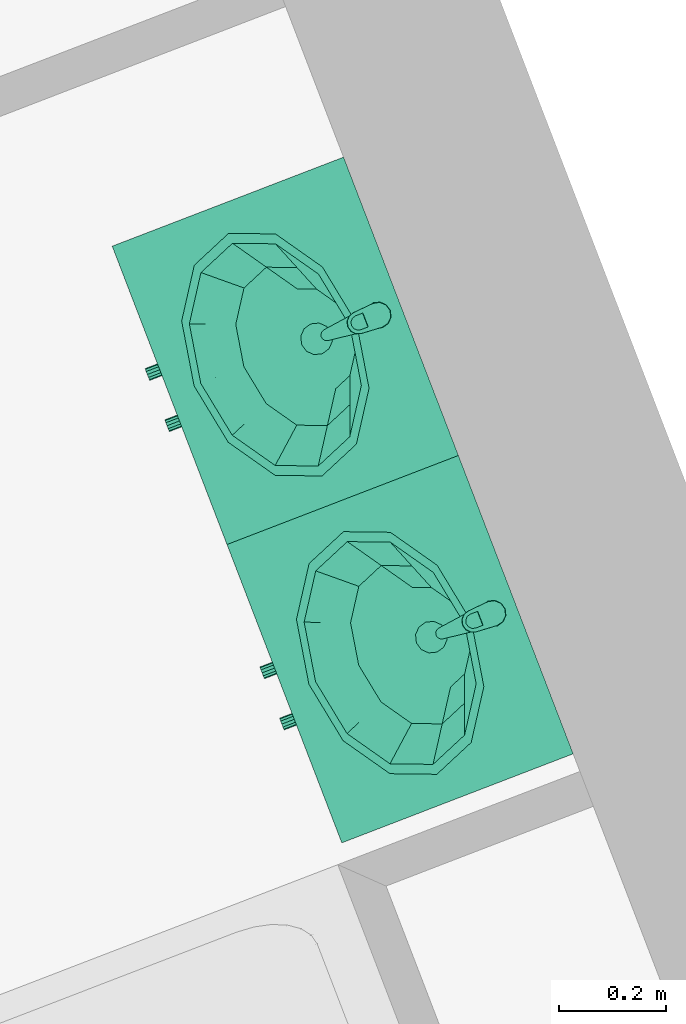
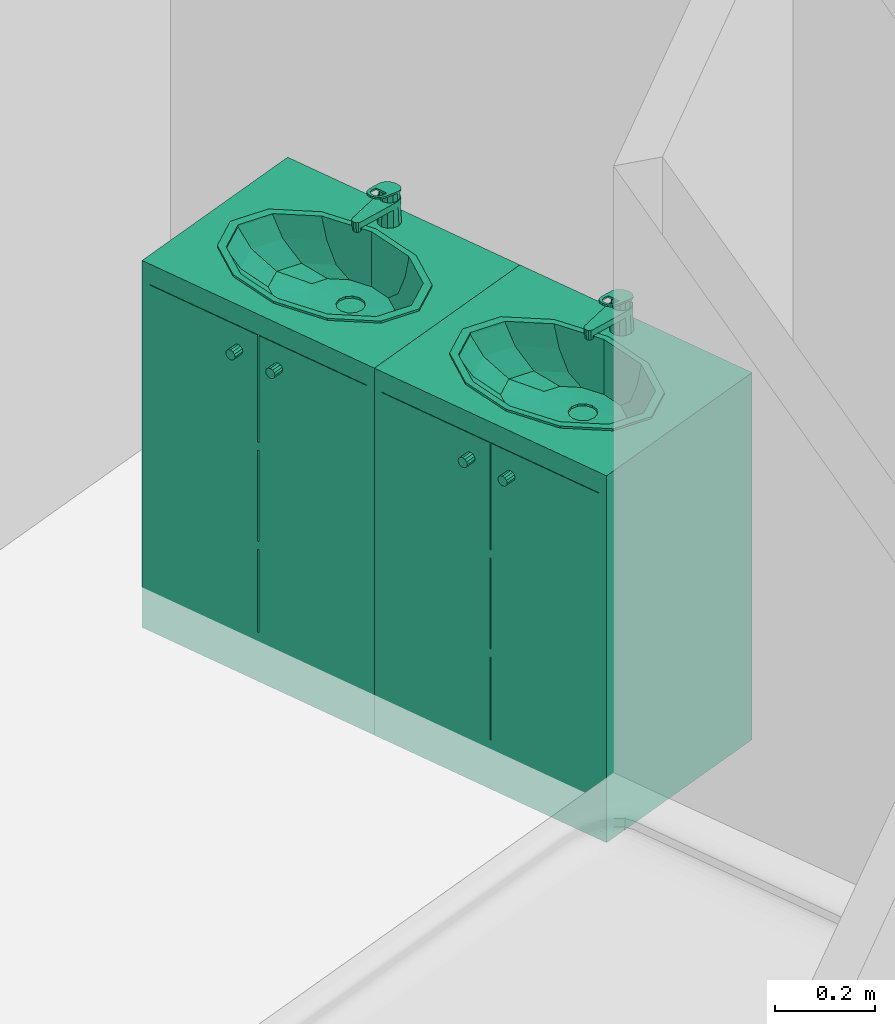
# One storey, part 142 of 195: 2 distribution elements.
"""IFC2X3 building model written with IfcOpenShell, lengths in metres."""

from ifc_helpers import new_model, entity, si_unit, converted_unit, derived_unit, money_unit, direction, frame, origin_with_axes, place, context, subcontext, project, spatial, open_shell, faceted_brep, surface_model, source, transform, mapped, type_object, element, save


model = new_model("IFC2X3")

# Units and contexts
model_context = context("Model", 3, precision=1e-05, world=origin_with_axes(), true_north=direction((0.0, 1.0)))
body_context = subcontext(model_context, "Body", "Model", "MODEL_VIEW")
ifc_project = project(units=[si_unit("LENGTHUNIT", "METRE"), si_unit("AREAUNIT", "SQUARE_METRE"), si_unit("VOLUMEUNIT", "CUBIC_METRE"), converted_unit("PLANEANGLEUNIT", "DEGREE", entity("IfcPlaneAngleMeasure", 0.0174532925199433), si_unit("PLANEANGLEUNIT", "RADIAN"), dimensions=[0, 0, 0, 0, 0, 0, 0]), money_unit("CHF"), converted_unit("TIMEUNIT", "Year", entity("IfcTimeMeasure", 31557600.0), si_unit("TIMEUNIT", "SECOND"), dimensions=[0, 0, 1, 0, 0, 0, 0]), si_unit("MASSUNIT", "GRAM", prefix="KILO"), si_unit("THERMODYNAMICTEMPERATUREUNIT", "DEGREE_CELSIUS"), si_unit("LUMINOUSINTENSITYUNIT", "LUMEN"), si_unit("ENERGYUNIT", "JOULE", prefix="MEGA"), derived_unit("THERMALCONDUCTANCEUNIT", [(si_unit("POWERUNIT", "WATT"), 1), (si_unit("LENGTHUNIT", "METRE"), -1), (si_unit("THERMODYNAMICTEMPERATUREUNIT", "KELVIN"), -1)]), derived_unit("SPECIFICHEATCAPACITYUNIT", [(si_unit("ENERGYUNIT", "JOULE"), 1), (si_unit("MASSUNIT", "GRAM", prefix="KILO"), -1), (si_unit("THERMODYNAMICTEMPERATUREUNIT", "KELVIN"), -1)]), derived_unit("MASSDENSITYUNIT", [(si_unit("MASSUNIT", "GRAM", prefix="KILO"), 1), (si_unit("VOLUMEUNIT", "CUBIC_METRE"), -1)])], contexts=[model_context])

# Site, building, storey
site_placement = place(None, origin_with_axes())
site = spatial("IfcSite", under=ifc_project, at=site_placement, Name="Site", CompositionType="ELEMENT")
building_placement = place(site_placement, origin_with_axes())
building = spatial("IfcBuilding", under=site, at=building_placement, Name="Bâtiment", CompositionType="ELEMENT")
storey_placement = place(building_placement, origin_with_axes())
storey = spatial("IfcBuildingStorey", under=building, at=storey_placement, Name="rdc", CompositionType="ELEMENT", Elevation=0.0)

# Distribution elements
distribution_element_type = type_object("IfcDistributionElementType", Name="Lavabo sur meuble 27")
shared_shape = source(origin_with_axes(), body_context, "Body", "SurfaceModel", [
    faceted_brep([(0.0, 0.0, 0.0), (0.6, 0.0, 0.0), (0.6, 0.0, 0.1), (0.0, 0.0, 0.1), (0.0, 0.4653441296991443, 0.0), (0.6, 0.4653441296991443, 0.0), (0.6, 0.4653441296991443, 0.1), (0.0, 0.4653441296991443, 0.1)], [[[0, 1, 2, 3]], [[0, 4, 5, 1]], [[1, 5, 6, 2]], [[3, 2, 6, 7]], [[4, 0, 3, 7]], [[5, 4, 7, 6]]]),
    faceted_brep([(0.0, 0.0, 0.1), (0.02, 0.0, 0.1), (0.02, 0.0, 0.12), (0.0, 0.0, 0.12), (0.0, 0.4653441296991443, 0.1), (0.02, 0.4653441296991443, 0.1), (0.58, 0.4653441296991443, 0.1), (0.6, 0.4653441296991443, 0.1), (0.6, 0.0, 0.1), (0.58, 0.0, 0.1), (0.58, 0.0, 0.12), (0.6, 0.0, 0.12), (0.6, 0.4653441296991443, 0.12), (0.58, 0.4653441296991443, 0.12), (0.02, 0.4653441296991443, 0.12), (0.0, 0.4653441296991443, 0.12)], [[[0, 1, 2, 3]], [[0, 4, 5, 6, 7, 8, 9, 1]], [[1, 9, 10, 2]], [[3, 2, 10, 11, 12, 13, 14, 15]], [[4, 0, 3, 15]], [[5, 4, 15, 14]], [[6, 5, 14, 13]], [[7, 6, 13, 12]], [[8, 7, 12, 11]], [[9, 8, 11, 10]]]),
    faceted_brep([(0.0, 0.0, 0.12), (0.02, 0.0, 0.12), (0.02, 0.0, 0.85), (0.0, 0.0, 0.85), (0.0, 0.4653441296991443, 0.12), (0.6, 0.4653441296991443, 0.12), (0.6, 0.0, 0.12), (0.58, 0.0, 0.12), (0.58, 0.4453441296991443, 0.12), (0.02, 0.4453441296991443, 0.12), (0.02, 0.4453441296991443, 0.85), (0.58, 0.4453441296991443, 0.85), (0.58, 0.0, 0.85), (0.6, 0.0, 0.85), (0.6, 0.4653441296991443, 0.85), (0.0, 0.4653441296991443, 0.85)], [[[0, 1, 2, 3]], [[0, 4, 5, 6, 7, 8, 9, 1]], [[1, 9, 10, 2]], [[3, 2, 10, 11, 12, 13, 14, 15]], [[4, 0, 3, 15]], [[5, 4, 15, 14]], [[6, 5, 14, 13]], [[7, 6, 13, 12]], [[8, 7, 12, 11]], [[9, 8, 11, 10]]]),
    faceted_brep([(0.58, 0.0, 0.3233333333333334), (0.58, 0.4453441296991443, 0.3233333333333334), (0.58, 0.4453441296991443, 0.3433333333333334), (0.58, 0.0, 0.3433333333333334), (0.02, 0.0, 0.3233333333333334), (0.02, 0.4453441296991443, 0.3233333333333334), (0.02, 0.4453441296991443, 0.3433333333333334), (0.02, 0.0, 0.3433333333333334)], [[[0, 1, 2, 3]], [[0, 4, 5, 1]], [[1, 5, 6, 2]], [[3, 2, 6, 7]], [[4, 0, 3, 7]], [[5, 4, 7, 6]]]),
    faceted_brep([(0.58, 0.0, 0.5666666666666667), (0.58, 0.4453441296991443, 0.5666666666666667), (0.58, 0.4453441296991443, 0.5866666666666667), (0.58, 0.0, 0.5866666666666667), (0.02, 0.0, 0.5666666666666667), (0.02, 0.4453441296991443, 0.5666666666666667), (0.02, 0.4453441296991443, 0.5866666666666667), (0.02, 0.0, 0.5866666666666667)], [[[0, 1, 2, 3]], [[0, 4, 5, 1]], [[1, 5, 6, 2]], [[3, 2, 6, 7]], [[4, 0, 3, 7]], [[5, 4, 7, 6]]]),
    faceted_brep([(0.0, 0.4653441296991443, 0.85), (0.6, 0.4653441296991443, 0.85), (0.6, 0.0, 0.85), (0.0, 0.0, 0.85), (0.4124999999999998, 0.08276825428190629, 0.85), (0.4948557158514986, 0.137672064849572, 0.85), (0.525, 0.2126720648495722, 0.85), (0.4948557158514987, 0.2876720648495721, 0.85), (0.4125, 0.3425758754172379, 0.85), (0.3, 0.3626720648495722, 0.85), (0.1875000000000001, 0.342575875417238, 0.85), (0.1051442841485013, 0.2876720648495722, 0.85), (0.07499999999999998, 0.2126720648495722, 0.85), (0.1051442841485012, 0.1376720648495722, 0.85), (0.1874999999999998, 0.08276825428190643, 0.85), (0.3, 0.06267206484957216, 0.85), (0.0, 0.4653441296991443, 0.9), (0.6, 0.4653441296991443, 0.9), (0.6, 0.0, 0.9), (0.0, 0.0, 0.9), (0.4124999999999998, 0.08276825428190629, 0.9), (0.4948557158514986, 0.137672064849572, 0.9), (0.525, 0.2126720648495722, 0.9), (0.4948557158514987, 0.2876720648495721, 0.9), (0.4125, 0.3425758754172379, 0.9), (0.3, 0.3626720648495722, 0.9), (0.1875000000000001, 0.342575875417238, 0.9), (0.1051442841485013, 0.2876720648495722, 0.9), (0.07499999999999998, 0.2126720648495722, 0.9), (0.1051442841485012, 0.1376720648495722, 0.9), (0.1874999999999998, 0.08276825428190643, 0.9), (0.3, 0.06267206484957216, 0.9)], [[[0, 1, 2, 3], [4, 5, 6, 7, 8, 9, 10, 11, 12, 13, 14, 15]], [[0, 16, 17, 1]], [[1, 17, 18, 2]], [[2, 18, 19, 3]], [[3, 19, 16, 0]], [[20, 21, 5, 4]], [[21, 22, 6, 5]], [[22, 23, 7, 6]], [[23, 24, 8, 7]], [[24, 25, 9, 8]], [[25, 26, 10, 9]], [[26, 27, 11, 10]], [[27, 28, 12, 11]], [[28, 29, 13, 12]], [[29, 30, 14, 13]], [[30, 31, 15, 14]], [[31, 20, 4, 15]], [[18, 17, 16, 19], [24, 23, 22, 21, 20, 31, 30, 29, 28, 27, 26, 25]]]),
    faceted_brep([(0.544, 0.2126720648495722, 0.905), (0.544, 0.2126720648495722, 0.9), (0.511310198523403, 0.2943684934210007, 0.9), (0.511310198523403, 0.2943684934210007, 0.905), (0.5113101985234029, 0.1309756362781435, 0.905), (0.5113101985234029, 0.1309756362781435, 0.9), (0.4219999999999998, 0.07116969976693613, 0.9), (0.3, 0.04927920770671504, 0.9), (0.1779999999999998, 0.07116969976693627, 0.9), (0.08868980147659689, 0.1309756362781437, 0.9), (0.05599999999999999, 0.2126720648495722, 0.9), (0.088689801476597, 0.2943684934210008, 0.9), (0.178, 0.3541744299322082, 0.9), (0.3, 0.3760649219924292, 0.9), (0.422, 0.3541744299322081, 0.9), (0.524, 0.2126720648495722, 0.9), (0.4939896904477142, 0.2876720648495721, 0.9), (0.412, 0.3425758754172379, 0.9), (0.3, 0.3626720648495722, 0.9), (0.1880000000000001, 0.342575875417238, 0.9), (0.1060103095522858, 0.2876720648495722, 0.9), (0.07599999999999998, 0.2126720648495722, 0.9), (0.1060103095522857, 0.1376720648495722, 0.9), (0.1879999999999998, 0.08276825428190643, 0.9), (0.3, 0.06267206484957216, 0.9), (0.4119999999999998, 0.08276825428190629, 0.9), (0.4939896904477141, 0.137672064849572, 0.9), (0.422, 0.3541744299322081, 0.905), (0.3, 0.3760649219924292, 0.905), (0.178, 0.3541744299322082, 0.905), (0.088689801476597, 0.2943684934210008, 0.905), (0.05599999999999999, 0.2126720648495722, 0.905), (0.08868980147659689, 0.1309756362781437, 0.905), (0.1779999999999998, 0.07116969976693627, 0.905), (0.3, 0.04927920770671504, 0.905), (0.4219999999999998, 0.07116969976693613, 0.905), (0.524, 0.2126720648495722, 0.905), (0.4939896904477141, 0.137672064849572, 0.905), (0.4119999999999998, 0.08276825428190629, 0.905), (0.3, 0.06267206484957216, 0.905), (0.1879999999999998, 0.08276825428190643, 0.905), (0.1060103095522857, 0.1376720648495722, 0.905), (0.07599999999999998, 0.2126720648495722, 0.905), (0.1060103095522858, 0.2876720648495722, 0.905), (0.1880000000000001, 0.342575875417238, 0.905), (0.3, 0.3626720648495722, 0.905), (0.412, 0.3425758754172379, 0.905), (0.4939896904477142, 0.2876720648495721, 0.905)], [[[0, 1, 2, 3]], [[4, 5, 1, 0]], [[1, 5, 6, 7, 8, 9, 10, 11, 12, 13, 14, 2], [15, 16, 17, 18, 19, 20, 21, 22, 23, 24, 25, 26]], [[3, 2, 14, 27]], [[0, 3, 27, 28, 29, 30, 31, 32, 33, 34, 35, 4], [36, 37, 38, 39, 40, 41, 42, 43, 44, 45, 46, 47]], [[35, 6, 5, 4]], [[34, 7, 6, 35]], [[33, 8, 7, 34]], [[32, 9, 8, 33]], [[31, 10, 9, 32]], [[30, 11, 10, 31]], [[29, 12, 11, 30]], [[28, 13, 12, 29]], [[27, 14, 13, 28]], [[47, 16, 15, 36]], [[46, 17, 16, 47]], [[45, 18, 17, 46]], [[44, 19, 18, 45]], [[43, 20, 19, 44]], [[42, 21, 20, 43]], [[41, 22, 21, 42]], [[40, 23, 22, 41]], [[39, 24, 23, 40]], [[38, 25, 24, 39]], [[37, 26, 25, 38]], [[36, 15, 26, 37]]]),
    surface_model("IfcShellBasedSurfaceModel", [(0.3, 0.3626720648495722, 0.9), (0.3, 0.3626720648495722, 0.848), (0.4008, 0.3445854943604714, 0.848), (0.412, 0.342575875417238, 0.9), (0.1879999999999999, 0.3425758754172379, 0.9), (0.1991999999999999, 0.3445854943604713, 0.848), (0.4745907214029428, 0.2951720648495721, 0.848), (0.4939896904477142, 0.2876720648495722, 0.9), (0.1060103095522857, 0.2876720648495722, 0.9), (0.1254092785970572, 0.2951720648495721, 0.848), (0.5016, 0.2276720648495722, 0.848), (0.524, 0.2126720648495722, 0.9), (0.07599999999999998, 0.2126720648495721, 0.9), (0.09839999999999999, 0.2276720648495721, 0.848), (0.4745907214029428, 0.1601720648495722, 0.848), (0.4939896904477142, 0.1376720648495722, 0.9), (0.1060103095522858, 0.1376720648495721, 0.9), (0.1254092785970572, 0.1601720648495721, 0.848), (0.4008, 0.1107586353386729, 0.848), (0.412, 0.08276825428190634, 0.9), (0.1879999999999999, 0.08276825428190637, 0.9), (0.1992, 0.110758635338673, 0.848), (0.3, 0.09267206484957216, 0.848), (0.3, 0.06267206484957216, 0.9)], [open_shell([[[0, 1, 2, 3]], [[4, 5, 1, 0]], [[3, 2, 6, 7]], [[8, 9, 5, 4]], [[7, 6, 10, 11]], [[12, 13, 9, 8]], [[11, 10, 14, 15]], [[16, 17, 13, 12]], [[15, 14, 18, 19]], [[20, 21, 17, 16]], [[19, 18, 22, 23]], [[23, 22, 21, 20]]])]),
    surface_model("IfcShellBasedSurfaceModel", [(0.3, 0.3626720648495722, 0.848), (0.3, 0.3626720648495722, 0.7959999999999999), (0.379632, 0.3483836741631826, 0.7959999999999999), (0.4008, 0.3445854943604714, 0.848), (0.1991999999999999, 0.3445854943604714, 0.848), (0.2203679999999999, 0.3483836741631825, 0.7959999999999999), (0.4379266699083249, 0.3093470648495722, 0.7959999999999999), (0.4745907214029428, 0.2951720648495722, 0.848), (0.1254092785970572, 0.2951720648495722, 0.848), (0.1620733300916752, 0.3093470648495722, 0.7959999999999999), (0.459264, 0.2560220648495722, 0.7959999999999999), (0.5016, 0.2276720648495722, 0.848), (0.09839999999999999, 0.2276720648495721, 0.848), (0.140736, 0.2560220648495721, 0.7959999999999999), (0.4379266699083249, 0.2026970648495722, 0.7959999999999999), (0.4745907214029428, 0.1601720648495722, 0.848), (0.1254092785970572, 0.1601720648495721, 0.848), (0.1620733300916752, 0.2026970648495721, 0.7959999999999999), (0.379632, 0.1636604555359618, 0.7959999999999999), (0.4008, 0.1107586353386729, 0.848), (0.1992, 0.110758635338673, 0.848), (0.220368, 0.1636604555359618, 0.7959999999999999), (0.3, 0.1493720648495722, 0.7959999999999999), (0.3, 0.09267206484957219, 0.848)], [open_shell([[[0, 1, 2, 3]], [[4, 5, 1, 0]], [[3, 2, 6, 7]], [[8, 9, 5, 4]], [[7, 6, 10, 11]], [[12, 13, 9, 8]], [[11, 10, 14, 15]], [[16, 17, 13, 12]], [[15, 14, 18, 19]], [[20, 21, 17, 16]], [[19, 18, 22, 23]], [[23, 22, 21, 20]]])]),
    surface_model("IfcShellBasedSurfaceModel", [(0.3, 0.3626720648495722, 0.7959999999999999), (0.3, 0.3626720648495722, 0.7699999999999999), (0.35016816, 0.3536703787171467, 0.7699999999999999), (0.379632, 0.3483836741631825, 0.7959999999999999), (0.2203679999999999, 0.3483836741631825, 0.7959999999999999), (0.2498318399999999, 0.3536703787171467, 0.7699999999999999), (0.3868938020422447, 0.3290773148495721, 0.7699999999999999), (0.4379266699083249, 0.3093470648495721, 0.7959999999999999), (0.1620733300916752, 0.3093470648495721, 0.7959999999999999), (0.2131061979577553, 0.3290773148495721, 0.7699999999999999), (0.40033632, 0.2954825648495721, 0.7699999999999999), (0.459264, 0.2560220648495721, 0.7959999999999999), (0.140736, 0.2560220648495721, 0.7959999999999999), (0.19966368, 0.2954825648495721, 0.7699999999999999), (0.3868938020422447, 0.2618878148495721, 0.7699999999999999), (0.4379266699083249, 0.2026970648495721, 0.7959999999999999), (0.1620733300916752, 0.2026970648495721, 0.7959999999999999), (0.2131061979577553, 0.2618878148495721, 0.7699999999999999), (0.35016816, 0.2372947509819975, 0.7699999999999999), (0.379632, 0.1636604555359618, 0.7959999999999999), (0.220368, 0.1636604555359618, 0.7959999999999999), (0.24983184, 0.2372947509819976, 0.7699999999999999), (0.3, 0.2282930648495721, 0.7699999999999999), (0.3, 0.1493720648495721, 0.7959999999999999)], [open_shell([[[0, 1, 2, 3]], [[4, 5, 1, 0]], [[3, 2, 6, 7]], [[8, 9, 5, 4]], [[7, 6, 10, 11]], [[12, 13, 9, 8]], [[11, 10, 14, 15]], [[16, 17, 13, 12]], [[15, 14, 18, 19]], [[20, 21, 17, 16]], [[19, 18, 22, 23]], [[23, 22, 21, 20]]])]),
    surface_model("IfcShellBasedSurfaceModel", [(0.3, 0.3626720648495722, 0.7699999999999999), (0.315, 0.3214633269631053, 0.7629999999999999), (0.35016816, 0.3536703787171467, 0.7699999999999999), (0.3, 0.3254825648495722, 0.7629999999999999), (0.3259807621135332, 0.3104825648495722, 0.7629999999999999), (0.2498318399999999, 0.3536703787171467, 0.7699999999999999), (0.3868938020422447, 0.3290773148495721, 0.7699999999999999), (0.285, 0.3214633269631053, 0.7629999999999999), (0.33, 0.2954825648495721, 0.7629999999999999), (0.2131061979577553, 0.3290773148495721, 0.7699999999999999), (0.40033632, 0.2954825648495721, 0.7699999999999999), (0.2740192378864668, 0.3104825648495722, 0.7629999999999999), (0.3259807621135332, 0.2804825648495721, 0.7629999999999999), (0.19966368, 0.2954825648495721, 0.7699999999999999), (0.3868938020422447, 0.2618878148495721, 0.7699999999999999), (0.27, 0.2954825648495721, 0.7629999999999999), (0.315, 0.269501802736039, 0.7629999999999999), (0.2131061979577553, 0.2618878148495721, 0.7699999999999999), (0.35016816, 0.2372947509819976, 0.7699999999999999), (0.2740192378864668, 0.2804825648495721, 0.7629999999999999), (0.3, 0.2654825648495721, 0.7629999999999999), (0.24983184, 0.2372947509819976, 0.7699999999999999), (0.3, 0.2282930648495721, 0.7699999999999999), (0.285, 0.269501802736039, 0.7629999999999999)], [open_shell([[[0, 1, 2]], [[0, 3, 1]], [[2, 1, 4]], [[5, 3, 0]], [[2, 4, 6]], [[5, 7, 3]], [[6, 4, 8]], [[9, 7, 5]], [[6, 8, 10]], [[9, 11, 7]], [[10, 8, 12]], [[13, 11, 9]], [[10, 12, 14]], [[13, 15, 11]], [[14, 12, 16]], [[17, 15, 13]], [[14, 16, 18]], [[17, 19, 15]], [[18, 16, 20]], [[21, 19, 17]], [[18, 20, 22]], [[21, 23, 19]], [[22, 20, 23]], [[22, 23, 21]]])]),
    surface_model("IfcShellBasedSurfaceModel", [(0.33, 0.2954825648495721, 0.763), (0.33, 0.2954825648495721, 0.758), (0.3259807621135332, 0.3104825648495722, 0.758), (0.3259807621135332, 0.3104825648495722, 0.763), (0.3259807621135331, 0.2804825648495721, 0.763), (0.3259807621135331, 0.2804825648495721, 0.758), (0.3149999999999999, 0.269501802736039, 0.758), (0.3, 0.2654825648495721, 0.758), (0.285, 0.269501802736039, 0.758), (0.2740192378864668, 0.2804825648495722, 0.758), (0.27, 0.2954825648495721, 0.758), (0.2740192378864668, 0.3104825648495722, 0.758), (0.285, 0.3214633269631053, 0.758), (0.3, 0.3254825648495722, 0.758), (0.315, 0.3214633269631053, 0.758), (0.315, 0.3214633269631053, 0.763), (0.3149999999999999, 0.269501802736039, 0.763), (0.3, 0.2654825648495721, 0.763), (0.285, 0.269501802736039, 0.763), (0.2740192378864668, 0.2804825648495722, 0.763), (0.27, 0.2954825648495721, 0.763), (0.2740192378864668, 0.3104825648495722, 0.763), (0.285, 0.3214633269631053, 0.763), (0.3, 0.3254825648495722, 0.763)], [open_shell([[[0, 1, 2, 3]], [[4, 5, 1, 0]], [[1, 5, 6, 7, 8, 9, 10, 11, 12, 13, 14, 2]], [[3, 2, 14, 15]], [[16, 6, 5, 4]], [[17, 7, 6, 16]], [[18, 8, 7, 17]], [[19, 9, 8, 18]], [[20, 10, 9, 19]], [[21, 11, 10, 20]], [[22, 12, 11, 21]], [[23, 13, 12, 22]], [[15, 14, 13, 23]]])]),
    faceted_brep([(0.3125, 0.4406587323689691, 0.9), (0.3, 0.4440080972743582, 0.9), (0.3, 0.4402100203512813, 0.9759615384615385), (0.310587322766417, 0.4373458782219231, 0.976507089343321), (0.3216506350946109, 0.4315080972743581, 0.9), (0.325, 0.4190080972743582, 0.9), (0.3216506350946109, 0.4065080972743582, 0.9), (0.3125, 0.3973574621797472, 0.9), (0.3, 0.3940080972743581, 0.9), (0.2875, 0.3973574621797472, 0.9), (0.278349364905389, 0.4065080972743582, 0.9), (0.275, 0.4190080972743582, 0.9), (0.278349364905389, 0.4315080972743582, 0.9), (0.2875, 0.4406587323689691, 0.9), (0.289412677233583, 0.4373458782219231, 0.976507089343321), (0.2817264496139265, 0.4295583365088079, 0.9779904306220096), (0.279, 0.4190080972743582, 0.98), (0.2818996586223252, 0.4085578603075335, 0.9819905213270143), (0.2895858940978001, 0.400970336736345, 0.9834357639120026), (0.3, 0.3982062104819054, 0.9839622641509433), (0.3104141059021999, 0.400970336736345, 0.9834357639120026), (0.3181003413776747, 0.4085578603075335, 0.9819905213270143), (0.321, 0.4190080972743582, 0.98), (0.3182735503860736, 0.4295583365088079, 0.9779904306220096)], [[[0, 1, 2, 3]], [[0, 4, 5, 6, 7, 8, 9, 10, 11, 12, 13, 1]], [[1, 13, 14, 2]], [[3, 2, 14, 15, 16, 17, 18, 19, 20, 21, 22, 23]], [[4, 0, 3, 23]], [[5, 4, 23, 22]], [[6, 5, 22, 21]], [[7, 6, 21, 20]], [[8, 7, 20, 19]], [[9, 8, 19, 18]], [[10, 9, 18, 17]], [[11, 10, 17, 16]], [[12, 11, 16, 15]], [[13, 12, 15, 14]]]),
    faceted_brep([(0.309, 0.3160080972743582, 0.935), (0.3077942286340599, 0.3205080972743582, 0.935), (0.3077942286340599, 0.3205080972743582, 0.9450000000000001), (0.309, 0.3160080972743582, 0.9450000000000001), (0.3077942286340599, 0.3115080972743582, 0.935), (0.3045, 0.3082138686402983, 0.935), (0.3, 0.3070080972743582, 0.935), (0.2955, 0.3082138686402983, 0.935), (0.2922057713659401, 0.3115080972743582, 0.935), (0.291, 0.3160080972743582, 0.935), (0.2922057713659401, 0.3205080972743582, 0.935), (0.2955, 0.3238023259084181, 0.935), (0.3, 0.3250080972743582, 0.935), (0.3045, 0.3238023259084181, 0.935), (0.3045, 0.3238023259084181, 0.9450000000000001), (0.3, 0.3250080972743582, 0.9450000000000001), (0.2955, 0.3238023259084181, 0.9450000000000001), (0.2922057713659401, 0.3205080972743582, 0.9450000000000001), (0.291, 0.3160080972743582, 0.9450000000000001), (0.2922057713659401, 0.3115080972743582, 0.9450000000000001), (0.2955, 0.3082138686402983, 0.9450000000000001), (0.3, 0.3070080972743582, 0.9450000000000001), (0.3045, 0.3082138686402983, 0.9450000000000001), (0.3077942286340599, 0.3115080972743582, 0.9450000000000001)], [[[0, 1, 2, 3]], [[0, 4, 5, 6, 7, 8, 9, 10, 11, 12, 13, 1]], [[1, 13, 14, 2]], [[3, 2, 14, 15, 16, 17, 18, 19, 20, 21, 22, 23]], [[4, 0, 3, 23]], [[5, 4, 23, 22]], [[6, 5, 22, 21]], [[7, 6, 21, 20]], [[8, 7, 20, 19]], [[9, 8, 19, 18]], [[10, 9, 18, 17]], [[11, 10, 17, 16]], [[12, 11, 16, 15]], [[13, 12, 15, 14]]]),
    faceted_brep([(0.2871282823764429, 0.439264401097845, 0.9600000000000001), (0.2782721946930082, 0.4292013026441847, 0.9600000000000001), (0.2761946, 0.4159581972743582, 0.9600000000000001), (0.2890880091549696, 0.3146197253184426, 0.9600000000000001), (0.2909711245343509, 0.3097249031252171, 0.9600000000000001), (0.2949066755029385, 0.3062583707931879, 0.9600000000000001), (0.300000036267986, 0.305008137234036, 0.9600000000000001), (0.3050933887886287, 0.3062584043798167, 0.9600000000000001), (0.309028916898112, 0.3097249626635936, 0.9600000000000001), (0.310912, 0.3146197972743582, 0.9600000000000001), (0.3238053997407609, 0.4159581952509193, 0.9600000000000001), (0.3217278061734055, 0.4292013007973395, 0.9600000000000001), (0.3128717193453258, 0.4392644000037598, 0.9600000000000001), (0.300000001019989, 0.44300807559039, 0.9600000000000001), (0.311, 0.4380606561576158, 0.9600000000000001), (0.3190525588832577, 0.4300080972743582, 0.9600000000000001), (0.322, 0.4190080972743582, 0.9600000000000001), (0.3190525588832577, 0.4080080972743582, 0.9600000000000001), (0.3109999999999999, 0.3999555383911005, 0.9600000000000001), (0.3, 0.3970080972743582, 0.9600000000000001), (0.289, 0.3999555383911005, 0.9600000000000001), (0.2809474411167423, 0.4080080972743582, 0.9600000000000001), (0.278, 0.4190080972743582, 0.9600000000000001), (0.2809474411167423, 0.4300080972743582, 0.9600000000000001), (0.289, 0.4380606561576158, 0.9600000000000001), (0.3, 0.4410080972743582, 0.9600000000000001), (0.2782721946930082, 0.4292013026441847, 0.9450000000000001), (0.2871282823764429, 0.439264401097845, 0.9450000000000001), (0.2761946, 0.4159581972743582, 0.9450000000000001), (0.2890880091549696, 0.3146197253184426, 0.9450000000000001), (0.2909711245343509, 0.3097249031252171, 0.9450000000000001), (0.2949066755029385, 0.3062583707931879, 0.9450000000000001), (0.300000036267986, 0.305008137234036, 0.9450000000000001), (0.3050933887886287, 0.3062584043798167, 0.9450000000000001), (0.309028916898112, 0.3097249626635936, 0.9450000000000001), (0.310912, 0.3146197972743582, 0.9450000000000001), (0.3238053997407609, 0.4159581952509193, 0.9450000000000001), (0.3217278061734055, 0.4292013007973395, 0.9450000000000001), (0.3128717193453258, 0.4392644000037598, 0.9450000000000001), (0.300000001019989, 0.44300807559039, 0.9450000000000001), (0.311375, 0.4387101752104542, 0.9450000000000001), (0.319702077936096, 0.4303830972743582, 0.9450000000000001), (0.32275, 0.4190080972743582, 0.9450000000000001), (0.319702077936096, 0.4076330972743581, 0.9450000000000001), (0.311375, 0.3993060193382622, 0.9450000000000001), (0.3, 0.3962580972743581, 0.9450000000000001), (0.288625, 0.3993060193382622, 0.9450000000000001), (0.280297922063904, 0.4076330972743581, 0.9450000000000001), (0.2772499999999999, 0.4190080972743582, 0.9450000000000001), (0.280297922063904, 0.4303830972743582, 0.9450000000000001), (0.288625, 0.4387101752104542, 0.9450000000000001), (0.3, 0.4417580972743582, 0.9450000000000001)], [[[0, 1, 2, 3, 4, 5, 6, 7, 8, 9, 10, 11, 12, 13], [14, 15, 16, 17, 18, 19, 20, 21, 22, 23, 24, 25]], [[26, 1, 0, 27]], [[28, 2, 1, 26]], [[29, 3, 2, 28]], [[30, 4, 3, 29]], [[31, 5, 4, 30]], [[32, 6, 5, 31]], [[33, 7, 6, 32]], [[34, 8, 7, 33]], [[35, 9, 8, 34]], [[36, 10, 9, 35]], [[37, 11, 10, 36]], [[38, 12, 11, 37]], [[39, 13, 12, 38]], [[27, 0, 13, 39]], [[40, 41, 15, 14]], [[41, 42, 16, 15]], [[42, 43, 17, 16]], [[43, 44, 18, 17]], [[44, 45, 19, 18]], [[20, 19, 45, 46]], [[21, 20, 46, 47]], [[22, 21, 47, 48]], [[23, 22, 48, 49]], [[24, 23, 49, 50]], [[50, 51, 25, 24]], [[51, 40, 14, 25]], [[32, 31, 30, 29, 28, 26, 27, 39, 38, 37, 36, 35, 34, 33], [44, 43, 42, 41, 40, 51, 50, 49, 48, 47, 46, 45]]]),
    faceted_brep([(0.323893, 0.4173155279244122, 0.9803223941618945), (0.3212964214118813, 0.4297828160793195, 0.9779476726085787), (0.3212964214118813, 0.4305312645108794, 0.9818770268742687), (0.323893, 0.4180639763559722, 0.9842517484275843), (0.3209459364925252, 0.377171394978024, 0.9879688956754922), (0.317663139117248, 0.3674937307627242, 0.9898122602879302), (0.3100614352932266, 0.3605443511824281, 0.9911359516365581), (0.2999995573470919, 0.3580224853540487, 0.9916163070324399), (0.289937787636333, 0.3605447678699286, 0.9911358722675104), (0.2823363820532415, 0.3674944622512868, 0.9898121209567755), (0.279054, 0.3771722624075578, 0.9879687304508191), (0.2761069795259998, 0.4173158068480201, 0.9803223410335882), (0.2787037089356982, 0.4297830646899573, 0.9779476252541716), (0.2875283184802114, 0.4390992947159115, 0.976173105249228), (0.3000001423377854, 0.4425400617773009, 0.9755177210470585), (0.3124719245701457, 0.4390991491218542, 0.9761731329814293), (0.314, 0.3934672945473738, 0.9848649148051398), (0.286, 0.3934672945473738, 0.9848649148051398), (0.286, 0.37865166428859, 0.9876869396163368), (0.2878756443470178, 0.3717752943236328, 0.9889967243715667), (0.293, 0.3667414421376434, 0.9899555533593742), (0.3, 0.3648989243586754, 0.9903065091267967), (0.307, 0.3667414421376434, 0.9899555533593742), (0.3121243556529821, 0.3717752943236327, 0.9889967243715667), (0.314, 0.37865166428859, 0.9876869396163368), (0.3124719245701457, 0.4398475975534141, 0.9801024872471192), (0.3000001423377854, 0.4432885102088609, 0.9794470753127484), (0.2875283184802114, 0.4398477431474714, 0.9801024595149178), (0.2787037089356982, 0.4305315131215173, 0.9818769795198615), (0.2761069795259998, 0.4180642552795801, 0.9842516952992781), (0.279054, 0.3779207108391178, 0.991898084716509), (0.2823363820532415, 0.3682429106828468, 0.9937414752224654), (0.289937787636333, 0.3612932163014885, 0.9950652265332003), (0.2999995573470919, 0.3587709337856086, 0.9955456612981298), (0.3100614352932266, 0.3612927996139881, 0.995065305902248), (0.317663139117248, 0.3682421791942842, 0.9937416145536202), (0.3209459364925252, 0.377919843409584, 0.9918982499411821), (0.314, 0.3942157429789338, 0.9887942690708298), (0.314, 0.3794001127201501, 0.9916162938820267), (0.3121243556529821, 0.3725237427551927, 0.9929260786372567), (0.307, 0.3674898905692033, 0.9938849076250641), (0.3, 0.3656473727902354, 0.9942358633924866), (0.293, 0.3674898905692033, 0.9938849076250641), (0.2878756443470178, 0.3725237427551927, 0.9929260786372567), (0.286, 0.3794001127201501, 0.9916162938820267), (0.286, 0.3942157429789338, 0.9887942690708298)], [[[0, 1, 2, 3]], [[0, 4, 5, 6, 7, 8, 9, 10, 11, 12, 13, 14, 15, 1], [16, 17, 18, 19, 20, 21, 22, 23, 24]], [[1, 15, 25, 2]], [[3, 2, 25, 26, 27, 28, 29, 30, 31, 32, 33, 34, 35, 36], [37, 38, 39, 40, 41, 42, 43, 44, 45]], [[4, 0, 3, 36]], [[5, 4, 36, 35]], [[6, 5, 35, 34]], [[7, 6, 34, 33]], [[8, 7, 33, 32]], [[9, 8, 32, 31]], [[10, 9, 31, 30]], [[11, 10, 30, 29]], [[12, 11, 29, 28]], [[13, 12, 28, 27]], [[14, 13, 27, 26]], [[15, 14, 26, 25]], [[17, 16, 37, 45]], [[18, 17, 45, 44]], [[19, 18, 44, 43]], [[20, 19, 43, 42]], [[21, 20, 42, 41]], [[22, 21, 41, 40]], [[23, 22, 40, 39]], [[24, 23, 39, 38]], [[16, 24, 38, 37]]]),
    surface_model("IfcShellBasedSurfaceModel", [(0.001500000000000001, 0.0, 0.1015), (0.001500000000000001, 0.0, 0.8485), (0.2985, 0.0, 0.8485), (0.2985, 0.0, 0.1015)], [open_shell([[[0, 1, 2, 3]]])]),
    faceted_brep([(0.2588923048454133, 0.0, 0.7855), (0.2545, 0.0, 0.7811076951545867), (0.2485, 0.0, 0.7795), (0.2425, 0.0, 0.7811076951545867), (0.2381076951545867, 0.0, 0.7855), (0.2365, 0.0, 0.7915), (0.2381076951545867, 0.0, 0.7975), (0.2425, 0.0, 0.8018923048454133), (0.2485, 0.0, 0.8035), (0.2545, 0.0, 0.8018923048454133), (0.2588923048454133, 0.0, 0.7975), (0.2605, 0.0, 0.7915), (0.2588923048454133, -0.025, 0.7855), (0.2545, -0.025, 0.7811076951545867), (0.2485, -0.025, 0.7795), (0.2425, -0.025, 0.7811076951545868), (0.2381076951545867, -0.025, 0.7855), (0.2365, -0.025, 0.7915), (0.2381076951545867, -0.025, 0.7975), (0.2425, -0.025, 0.8018923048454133), (0.2485, -0.025, 0.8035), (0.2545, -0.025, 0.8018923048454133), (0.2588923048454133, -0.025, 0.7975), (0.2605, -0.025, 0.7915)], [[[0, 1, 2, 3, 4, 5, 6, 7, 8, 9, 10, 11]], [[1, 0, 12, 13]], [[2, 1, 13, 14]], [[3, 2, 14, 15]], [[4, 3, 15, 16]], [[5, 4, 16, 17]], [[6, 5, 17, 18]], [[7, 6, 18, 19]], [[8, 7, 19, 20]], [[9, 8, 20, 21]], [[10, 9, 21, 22]], [[11, 10, 22, 23]], [[0, 11, 23, 12]], [[12, 23, 22, 21, 20, 19, 18, 17, 16, 15, 14, 13]]]),
    surface_model("IfcShellBasedSurfaceModel", [(0.5985, 0.0, 0.1015), (0.3015000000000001, 0.0, 0.1015), (0.3015000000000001, 0.0, 0.8485), (0.5985, 0.0, 0.8485)], [open_shell([[[0, 1, 2, 3]]])]),
    faceted_brep([(0.3411076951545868, 0.0, 0.7855), (0.3395, 0.0, 0.7915), (0.3411076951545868, 0.0, 0.7975), (0.3455, 0.0, 0.8018923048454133), (0.3515, 0.0, 0.8035), (0.3575, 0.0, 0.8018923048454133), (0.3618923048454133, 0.0, 0.7975), (0.3635, 0.0, 0.7915), (0.3618923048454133, 0.0, 0.7855), (0.3575, 0.0, 0.7811076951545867), (0.3515, 0.0, 0.7795), (0.3455, 0.0, 0.7811076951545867), (0.3411076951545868, -0.025, 0.7855), (0.3395, -0.025, 0.7915), (0.3411076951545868, -0.025, 0.7975), (0.3455, -0.025, 0.8018923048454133), (0.3515, -0.025, 0.8035), (0.3575, -0.025, 0.8018923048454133), (0.3618923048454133, -0.025, 0.7975), (0.3635, -0.025, 0.7915), (0.3618923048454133, -0.025, 0.7855), (0.3575, -0.025, 0.7811076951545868), (0.3515, -0.025, 0.7795), (0.3455, -0.025, 0.7811076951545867)], [[[0, 1, 2, 3, 4, 5, 6, 7, 8, 9, 10, 11]], [[0, 12, 13, 1]], [[1, 13, 14, 2]], [[2, 14, 15, 3]], [[3, 15, 16, 4]], [[4, 16, 17, 5]], [[5, 17, 18, 6]], [[6, 18, 19, 7]], [[7, 19, 20, 8]], [[8, 20, 21, 9]], [[9, 21, 22, 10]], [[10, 22, 23, 11]], [[11, 23, 12, 0]], [[12, 23, 22, 21, 20, 19, 18, 17, 16, 15, 14, 13]]]),
])
for number, where, z_axis, x_axis, name in (
    (1, (9589.947771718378, -1037.355987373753, 57.59999999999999), (0.0, 0.0, 1.0), (0.3591526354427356, -0.9332788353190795, 0.0), "Obj.-004"),
    (2, (9589.732280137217, -1036.796020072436, 57.59999999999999), (0.0, 0.0, 1.0), (0.3591526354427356, -0.9332788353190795, 0.0), "Obj.-004"),
):
    element("IfcDistributionElement", number, at=place(storey_placement, frame(where, z_axis=z_axis, x_axis=x_axis)), inside=storey, type_object=distribution_element_type, Name=name, context=body_context, shape_type="MappedRepresentation", body=[
        mapped(shared_shape, transform((0.0, 0.0, 0.0))),
    ])

save(model, "model.ifc")
